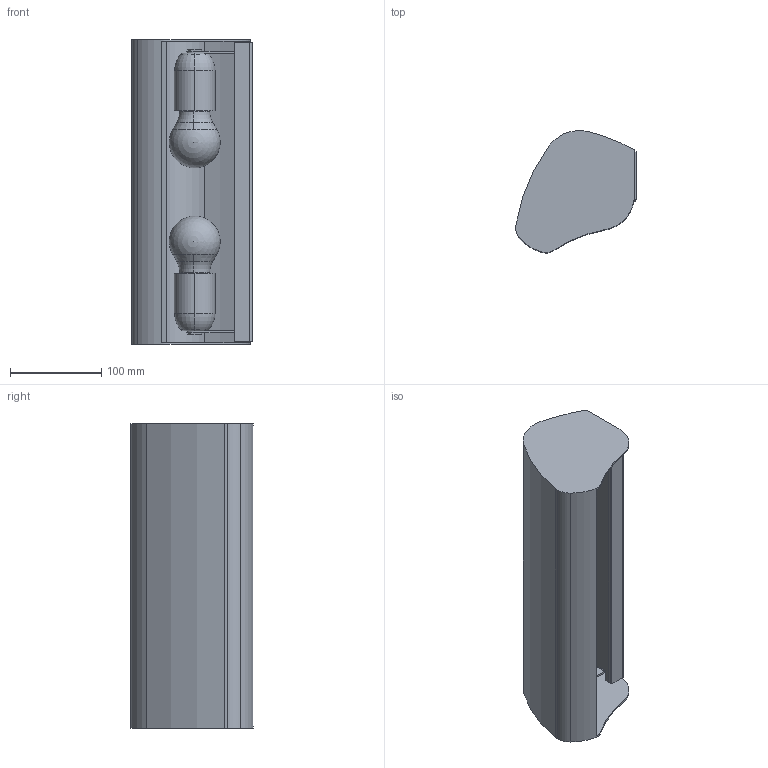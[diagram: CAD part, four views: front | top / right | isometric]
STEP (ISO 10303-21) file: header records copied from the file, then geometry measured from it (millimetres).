
FILE_DESCRIPTION (( 'STEP AP203' ), '1' );
FILE_NAME ('800ASREWW311_APPLIQUE RADIEUSE.STEP', '2022-06-20T15:44:18', ( '' ), ( '' ), 'SwSTEP 2.0', 'SolidWorks 2016', '' );
FILE_SCHEMA (( 'CONFIG_CONTROL_DESIGN' ));
Length unit declared in the file: millimetre
Products named in the file (11): 010ASR700300_STAFFA MURO; 083COME27026_FRUTTO PTL E27 ART.029683 PL BI; Dado 12401 Sacla; AS_PTL_E27_3PZ_SCATTO; ARDITI_029697_Cap_E27_Art.100_ASFV; 800ASREWW311_APPLIQUE RADIEUSE; 010ASR700100_CORPO; 019COM700390_COPRI-PTL E27 41X60 COD.0911 FE GR ; E27_a60_D‚faut; ptl e27 monocorpo(arditi 81s); 010ASR700200_STAFFA PTL
Assembly tree (14 placements, depth 3):
  800ASREWW311_APPLIQUE RADIEUSE
    010ASR700300_STAFFA MURO
    010ASR700100_CORPO
    019COM700390_COPRI-PTL E27 41X60 COD.0911 FE GR   x2
    AS_PTL_E27_3PZ_SCATTO  x2
      ARDITI_029697_Cap_E27_Art.100_ASFV
      083COME27026_FRUTTO PTL E27 ART.029683 PL BI
      ptl e27 monocorpo(arditi 81s)
    010ASR700200_STAFFA PTL
    Dado 12401 Sacla  x2
    E27_a60_D‚faut  x2
Bounding box: 132 x 133.85 x 334 mm (x, y, z)
Volume: 409649.2 mm3; surface area: 465671.5 mm2
Topology: 35 solids, 35 shells, 1254 faces, 3236 edges, 2006 vertices
Faces by surface type: plane 525, cylinder 379, bspline 134, torus 108, cone 68, sphere 40
Entity records: 67504 total; most frequent: CARTESIAN_POINT 50395, ORIENTED_EDGE 3412, DIRECTION 3225, EDGE_CURVE 1706, AXIS2_PLACEMENT_3D 1194, VERTEX_POINT 1070, VECTOR 837, LINE 837
